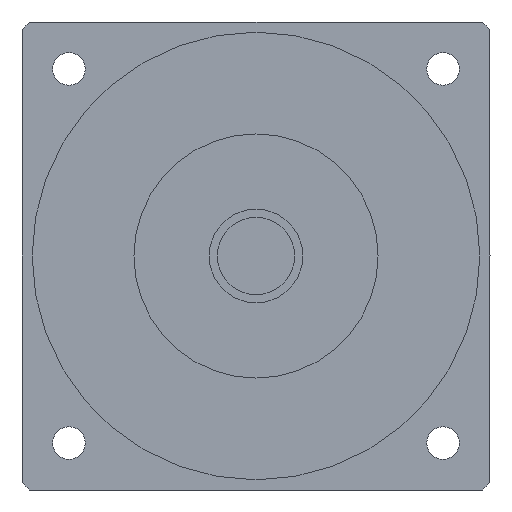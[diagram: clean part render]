
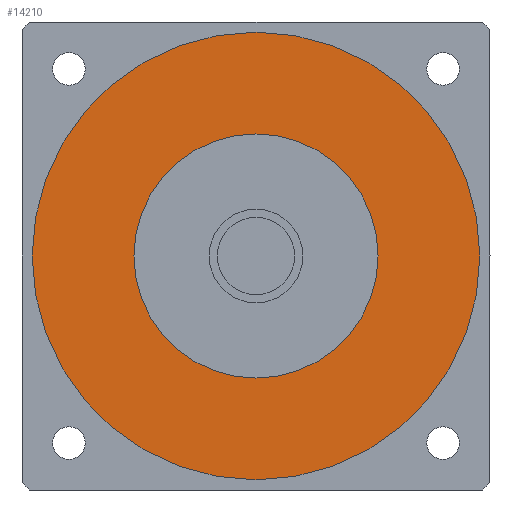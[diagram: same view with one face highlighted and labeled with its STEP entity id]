
A CAD part, left-side view. The second image highlights one B-rep face of the part: STEP entity #14210.
In plain terms, the highlighted planar face has unit normal (-1, 0, 0) as drawn and (0, 0, -1) by its records, which use the part's own axes.
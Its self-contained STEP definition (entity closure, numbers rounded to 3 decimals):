
#8890=CARTESIAN_POINT('',(30.,0.,-42.9));
#8900=VERTEX_POINT('',#8890);
#8930=CARTESIAN_POINT('',(0.,0.,
-42.9));
#8940=DIRECTION('',(0.,0.,1.));
#8950=DIRECTION('',(0.,1.,0.));
#8960=AXIS2_PLACEMENT_3D('',#8930,#8940,#8950);
#8970=CIRCLE('',#8960,30.);
#8980=CARTESIAN_POINT('',(0.,30.,-42.9));
#8990=VERTEX_POINT('',#8980);
#9000=EDGE_CURVE('',#8900,#8990,#8970,.T.);
#9020=CARTESIAN_POINT('',(-30.,0.,-42.9));
#9030=VERTEX_POINT('',#9020);
#9040=EDGE_CURVE('',#8990,#9030,#8970,.T.);
#13760=CARTESIAN_POINT('',(55.,0.,-42.9));
#13770=VERTEX_POINT('',#13760);
#13860=CARTESIAN_POINT('',(-55.,0.,-42.9));
#13870=VERTEX_POINT('',#13860);
#13900=CARTESIAN_POINT('',(0.,0.,
-42.9));
#13910=DIRECTION('',(0.,0.,1.));
#13920=DIRECTION('',(0.,1.,0.));
#13930=AXIS2_PLACEMENT_3D('',#13900,#13910,#13920);
#13940=CIRCLE('',#13930,55.);
#13950=CARTESIAN_POINT('',(0.,55.,-42.9));
#13960=VERTEX_POINT('',#13950);
#13970=EDGE_CURVE('',#13960,#13870,#13940,.T.);
#13990=EDGE_CURVE('',#13770,#13960,#13940,.T.);
#14040=CARTESIAN_POINT('',(0.,0.,
-42.9));
#14050=DIRECTION('',(0.,0.,1.));
#14060=DIRECTION('',(-1.,0.,0.));
#14070=AXIS2_PLACEMENT_3D('',#14040,#14050,#14060);
#14080=PLANE('',#14070);
#14090=ORIENTED_EDGE('',*,*,#13970,.F.);
#14100=EDGE_CURVE('',#13870,#13770,#13940,.T.);
#14110=ORIENTED_EDGE('',*,*,#14100,.F.);
#14120=ORIENTED_EDGE('',*,*,#13990,.F.);
#14130=EDGE_LOOP('',(#14120,#14110,#14090));
#14140=FACE_OUTER_BOUND('',#14130,.T.);
#14150=EDGE_CURVE('',#9030,#8900,#8970,.T.);
#14160=ORIENTED_EDGE('',*,*,#14150,.T.);
#14170=ORIENTED_EDGE('',*,*,#9040,.T.);
#14180=ORIENTED_EDGE('',*,*,#9000,.T.);
#14190=EDGE_LOOP('',(#14180,#14170,#14160));
#14200=FACE_BOUND('',#14190,.T.);
#14210=ADVANCED_FACE('',(#14140,#14200),#14080,.F.);
